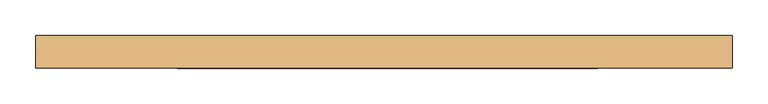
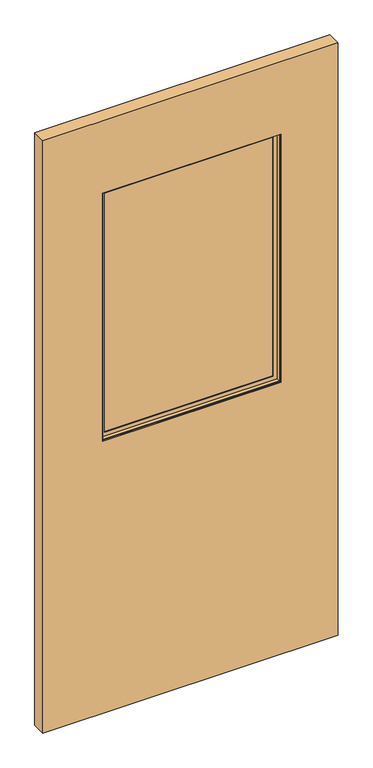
"""IFC4 building model written with IfcOpenShell, lengths in millimetres: door geometry, Solid_Hinged_Door_Glass_insert-AIH-Teknion-FHDB-Leaf_Single-R2022 : (A) Justified Half Glass insert."""

from ifc_helpers import new_model, si_unit, frame, origin, place, context, project, spatial, polyline, outline, extrude, faceted_brep, source, transform, mapped, element, save


def door_bd186470(model_context):
    return source(origin(), model_context, "Body", "SolidModel", [
        extrude(outline(polyline([(300.7535674, 3.175), (300.7535674, -3.175), (-291.0664326, -3.175), (-291.0664326, 3.175), (300.7535674, 3.175)])), frame((0.0, 0.0, 968.7435027), z_axis=(0.0, 0.0, 1.0), x_axis=(1.0, 0.0, 0.0)), (0.0, 0.0, 1.0), 871.22),
        faceted_brep([(-275.1758536, -3.797467, 1824.0729238), (-275.1758536, -6.9755828, 1824.0729238), (-275.1758536, -6.9755828, 984.6340817), (-275.1758536, -3.797467, 984.6340817), (284.8629885, -6.9755828, 984.6340817), (284.8629885, -3.797467, 984.6340817), (297.5754516, -6.9755828, 971.9216185), (297.5754516, -6.9755828, 1836.7853869), (-287.8883168, -6.9755828, 1836.7853869), (-287.8883168, -6.9755828, 971.9216185), (284.8629885, -6.9755828, 1824.0729238), (284.8629885, -3.797467, 1824.0729238), (-291.0664326, -3.797467, 968.7435027), (-291.0664326, -3.797467, 1839.9635027), (300.7535674, -3.797467, 1839.9635027), (300.7535674, -3.797467, 968.7435027), (-291.0664326, -19.688046, 1839.9635027), (-291.0664326, -19.688046, 968.7435027), (300.7535674, -19.688046, 968.7435027), (300.7535674, -19.688046, 1839.9635027), (-287.8883168, -19.688046, 971.9216185), (-287.8883168, -19.688046, 1836.7853869), (297.5754516, -19.688046, 1836.7853869), (297.5754516, -19.688046, 971.9216185)], [[[0, 1, 2, 3]], [[3, 2, 4, 5]], [[6, 7, 8, 9], [2, 1, 10, 4]], [[5, 4, 10, 11]], [[12, 13, 14, 15], [5, 11, 0, 3]], [[16, 13, 12, 17]], [[17, 12, 15, 18]], [[18, 15, 14, 19]], [[18, 19, 16, 17], [20, 21, 22, 23]], [[8, 21, 20, 9]], [[9, 20, 23, 6]], [[6, 23, 22, 7]], [[11, 10, 1, 0]], [[19, 14, 13, 16]], [[7, 22, 21, 8]]]),
        faceted_brep([(-287.8883168, 19.688046, 1836.7853869), (-287.8883168, 6.9755828, 1836.7853869), (-287.8883168, 6.9755828, 971.9216185), (-287.8883168, 19.688046, 971.9216185), (297.5754516, 6.9755828, 971.9216185), (297.5754516, 19.688046, 971.9216185), (297.5754516, 6.9755828, 1836.7853869), (284.8629885, 6.9755828, 984.6340817), (284.8629885, 6.9755828, 1824.0729238), (-275.1758536, 6.9755828, 1824.0729238), (-275.1758536, 6.9755828, 984.6340817), (297.5754516, 19.688046, 1836.7853869), (-291.0664326, 19.688046, 968.7435027), (-291.0664326, 19.688046, 1839.9635027), (300.7535674, 19.688046, 1839.9635027), (300.7535674, 19.688046, 968.7435027), (-291.0664326, 3.797467, 1839.9635027), (-291.0664326, 3.797467, 968.7435027), (300.7535674, 3.797467, 968.7435027), (300.7535674, 3.797467, 1839.9635027), (-275.1758536, 3.797467, 984.6340817), (-275.1758536, 3.797467, 1824.0729238), (284.8629885, 3.797467, 1824.0729238), (284.8629885, 3.797467, 984.6340817)], [[[0, 1, 2, 3]], [[3, 2, 4, 5]], [[2, 1, 6, 4], [7, 8, 9, 10]], [[5, 4, 6, 11]], [[12, 13, 14, 15], [5, 11, 0, 3]], [[16, 13, 12, 17]], [[17, 12, 15, 18]], [[18, 15, 14, 19]], [[18, 19, 16, 17], [20, 21, 22, 23]], [[9, 21, 20, 10]], [[10, 20, 23, 7]], [[7, 23, 22, 8]], [[11, 6, 1, 0]], [[19, 14, 13, 16]], [[8, 22, 21, 9]]]),
        extrude(outline(polyline([(2093.9635027, 490.4564326), (2093.9635027, -490.4564326), (12.7, -490.4564326), (12.7, 490.4564326), (2093.9635027, 490.4564326)]), holes=[polyline([(1839.9635027, -291.0664326), (1839.9635027, 300.7535674), (968.7435027, 300.7535674), (968.7435027, -291.0664326), (1839.9635027, -291.0664326)])]), frame((0.0, -23.114, 0.0), z_axis=(0.0, 1.0, 0.0), x_axis=(0.0, 0.0, 1.0)), (0.0, 0.0, 1.0), 46.228),
    ])


if __name__ == "__main__":
    model = new_model("IFC4")
    model_context = context("Model", 3, world=origin())
    ifc_project = project(units=[si_unit("LENGTHUNIT", "METRE", prefix="MILLI")], contexts=[model_context])
    site = spatial("IfcSite", under=ifc_project)
    building = spatial("IfcBuilding", under=site)
    placement = place(None, origin())
    door_shape = door_bd186470(model_context)
    element("IfcDoor", 1, ObjectType="Solid_Hinged_Door_Glass_insert-AIH-Teknion-FHDB-Leaf_Single-R2022 : (A) Justified Half Glass insert", at=placement, inside=building, context=model_context, shape_type="MappedRepresentation", body=[
        mapped(door_shape, transform((0.0, 0.0, 0.0), x_axis=(1.0, 0.0, 0.0), y_axis=(0.0, 1.0, 0.0), z_axis=(0.0, 0.0, 1.0))),
    ])
    save(model, "model.ifc")
